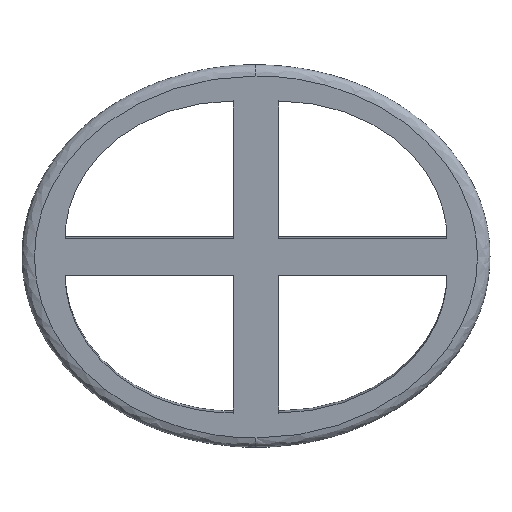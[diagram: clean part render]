
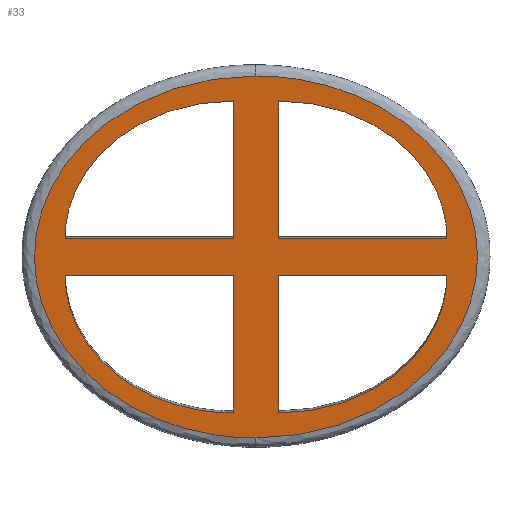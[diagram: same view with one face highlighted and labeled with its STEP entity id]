
A CAD part, front view. The second image highlights one B-rep face of the part: STEP entity #33.
In plain terms, the highlighted planar face has unit normal (-0.001, -0.994, -0.107).
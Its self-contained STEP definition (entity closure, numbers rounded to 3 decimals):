
#24=FACE_BOUND('',#70,.T.);
#25=FACE_BOUND('',#71,.T.);
#26=FACE_BOUND('',#72,.T.);
#27=FACE_BOUND('',#73,.T.);
#33=ADVANCED_FACE('',(#51,#24,#25,#26,#27),#308,.T.);
#51=FACE_OUTER_BOUND('',#69,.T.);
#69=EDGE_LOOP('',(#98,#99));
#70=EDGE_LOOP('',(#100,#101,#102));
#71=EDGE_LOOP('',(#103,#104,#105));
#72=EDGE_LOOP('',(#106,#107,#108));
#73=EDGE_LOOP('',(#109,#110,#111));
#98=ORIENTED_EDGE('',*,*,#197,.T.);
#99=ORIENTED_EDGE('',*,*,#231,.T.);
#100=ORIENTED_EDGE('',*,*,#204,.F.);
#101=ORIENTED_EDGE('',*,*,#189,.F.);
#102=ORIENTED_EDGE('',*,*,#188,.F.);
#103=ORIENTED_EDGE('',*,*,#190,.F.);
#104=ORIENTED_EDGE('',*,*,#208,.F.);
#105=ORIENTED_EDGE('',*,*,#191,.F.);
#106=ORIENTED_EDGE('',*,*,#192,.F.);
#107=ORIENTED_EDGE('',*,*,#215,.F.);
#108=ORIENTED_EDGE('',*,*,#193,.F.);
#109=ORIENTED_EDGE('',*,*,#225,.T.);
#110=ORIENTED_EDGE('',*,*,#194,.T.);
#111=ORIENTED_EDGE('',*,*,#195,.T.);
#188=EDGE_CURVE('',#279,#280,#232,.T.);
#189=EDGE_CURVE('',#280,#281,#233,.T.);
#190=EDGE_CURVE('',#283,#284,#234,.T.);
#191=EDGE_CURVE('',#284,#282,#235,.T.);
#192=EDGE_CURVE('',#286,#287,#236,.T.);
#193=EDGE_CURVE('',#287,#285,#237,.T.);
#194=EDGE_CURVE('',#288,#289,#238,.T.);
#195=EDGE_CURVE('',#289,#290,#239,.T.);
#197=EDGE_CURVE('',#303,#307,#259,.T.);
#204=EDGE_CURVE('',#281,#279,#261,.T.);
#208=EDGE_CURVE('',#282,#283,#265,.T.);
#215=EDGE_CURVE('',#285,#286,#269,.T.);
#225=EDGE_CURVE('',#290,#288,#271,.T.);
#231=EDGE_CURVE('',#307,#303,#277,.T.);
#232=B_SPLINE_CURVE_WITH_KNOTS('',1,(#1213,#1214),.UNSPECIFIED.,.F.,.F.,
(2,2),(6.283,6.783),.UNSPECIFIED.);
#233=B_SPLINE_CURVE_WITH_KNOTS('',1,(#1215,#1216),.UNSPECIFIED.,.F.,.F.,
(2,2),(6.783,7.783),.UNSPECIFIED.);
#234=B_SPLINE_CURVE_WITH_KNOTS('',1,(#1217,#1218),.UNSPECIFIED.,.F.,.F.,
(2,2),(5.142,6.142),.UNSPECIFIED.);
#235=B_SPLINE_CURVE_WITH_KNOTS('',1,(#1219,#1220),.UNSPECIFIED.,.F.,.F.,
(2,2),(6.142,6.642),.UNSPECIFIED.);
#236=B_SPLINE_CURVE_WITH_KNOTS('',1,(#1221,#1222),.UNSPECIFIED.,.F.,.F.,
(2,2),(6.142,7.142),.UNSPECIFIED.);
#237=B_SPLINE_CURVE_WITH_KNOTS('',1,(#1223,#1224),.UNSPECIFIED.,.F.,.F.,
(2,2),(7.142,7.642),.UNSPECIFIED.);
#238=B_SPLINE_CURVE_WITH_KNOTS('',1,(#1225,#1226),.UNSPECIFIED.,.F.,.F.,
(2,2),(0.,1.),.UNSPECIFIED.);
#239=B_SPLINE_CURVE_WITH_KNOTS('',1,(#1227,#1228),.UNSPECIFIED.,.F.,.F.,
(2,2),(1.,1.5),.UNSPECIFIED.);
#259=(
BOUNDED_CURVE()
B_SPLINE_CURVE(2,(#1234,#1235,#1236,#1237,#1238),.UNSPECIFIED.,.F.,.F.)
B_SPLINE_CURVE_WITH_KNOTS((3,2,3),(0.,1.571,3.142),
 .UNSPECIFIED.)
CURVE()
GEOMETRIC_REPRESENTATION_ITEM()
RATIONAL_B_SPLINE_CURVE((1.,0.707,1.,0.707,1.))
REPRESENTATION_ITEM('')
);
#261=(
BOUNDED_CURVE()
B_SPLINE_CURVE(2,(#1252,#1253,#1254),.UNSPECIFIED.,.F.,.F.)
B_SPLINE_CURVE_WITH_KNOTS((3,3),(7.783,9.354),
 .UNSPECIFIED.)
CURVE()
GEOMETRIC_REPRESENTATION_ITEM()
RATIONAL_B_SPLINE_CURVE((1.,0.707,1.))
REPRESENTATION_ITEM('')
);
#265=(
BOUNDED_CURVE()
B_SPLINE_CURVE(2,(#1262,#1263,#1264),.UNSPECIFIED.,.F.,.F.)
B_SPLINE_CURVE_WITH_KNOTS((3,3),(3.571,5.142),
 .UNSPECIFIED.)
CURVE()
GEOMETRIC_REPRESENTATION_ITEM()
RATIONAL_B_SPLINE_CURVE((1.,0.707,1.))
REPRESENTATION_ITEM('')
);
#269=(
BOUNDED_CURVE()
B_SPLINE_CURVE(2,(#1278,#1279,#1280),.UNSPECIFIED.,.F.,.F.)
B_SPLINE_CURVE_WITH_KNOTS((3,3),(4.571,6.142),
 .UNSPECIFIED.)
CURVE()
GEOMETRIC_REPRESENTATION_ITEM()
RATIONAL_B_SPLINE_CURVE((1.,0.707,1.))
REPRESENTATION_ITEM('')
);
#271=(
BOUNDED_CURVE()
B_SPLINE_CURVE(2,(#1300,#1301,#1302),.UNSPECIFIED.,.F.,.F.)
B_SPLINE_CURVE_WITH_KNOTS((3,3),(1.5,3.071),.UNSPECIFIED.)
CURVE()
GEOMETRIC_REPRESENTATION_ITEM()
RATIONAL_B_SPLINE_CURVE((1.,0.707,1.))
REPRESENTATION_ITEM('')
);
#277=(
BOUNDED_CURVE()
B_SPLINE_CURVE(2,(#1371,#1372,#1373,#1374,#1375),.UNSPECIFIED.,.F.,.F.)
B_SPLINE_CURVE_WITH_KNOTS((3,2,3),(3.142,4.712,6.283),
 .UNSPECIFIED.)
CURVE()
GEOMETRIC_REPRESENTATION_ITEM()
RATIONAL_B_SPLINE_CURVE((1.,0.707,1.,0.707,1.))
REPRESENTATION_ITEM('')
);
#279=VERTEX_POINT('',#1127);
#280=VERTEX_POINT('',#1128);
#281=VERTEX_POINT('',#1129);
#282=VERTEX_POINT('',#1130);
#283=VERTEX_POINT('',#1131);
#284=VERTEX_POINT('',#1132);
#285=VERTEX_POINT('',#1133);
#286=VERTEX_POINT('',#1134);
#287=VERTEX_POINT('',#1135);
#288=VERTEX_POINT('',#1136);
#289=VERTEX_POINT('',#1137);
#290=VERTEX_POINT('',#1138);
#303=VERTEX_POINT('',#1151);
#307=VERTEX_POINT('',#1155);
#308=PLANE('',#346);
#346=AXIS2_PLACEMENT_3D('',#552,#359,$);
#359=DIRECTION('',(-0.001,-0.994,-0.107));
#552=CARTESIAN_POINT('',(-35.975,-91.386,-20.774));
#1127=CARTESIAN_POINT('',(-3.681,-91.915,-16.233));
#1128=CARTESIAN_POINT('',(-3.681,-94.27,5.612));
#1129=CARTESIAN_POINT('',(-30.413,-94.238,5.615));
#1130=CARTESIAN_POINT('',(-3.681,-97.257,33.312));
#1131=CARTESIAN_POINT('',(-30.413,-94.869,11.471));
#1132=CARTESIAN_POINT('',(-3.681,-94.902,11.467));
#1133=CARTESIAN_POINT('',(3.485,-91.924,-16.234));
#1134=CARTESIAN_POINT('',(30.216,-94.311,5.607));
#1135=CARTESIAN_POINT('',(3.485,-94.279,5.611));
#1136=CARTESIAN_POINT('',(30.216,-94.943,11.463));
#1137=CARTESIAN_POINT('',(3.485,-94.91,11.466));
#1138=CARTESIAN_POINT('',(3.485,-97.266,33.311));
#1151=CARTESIAN_POINT('',(-0.098,-91.491,-20.204));
#1155=CARTESIAN_POINT('',(-0.098,-97.689,37.282));
#1213=CARTESIAN_POINT('',(-3.681,-91.915,-16.233));
#1214=CARTESIAN_POINT('',(-3.681,-94.27,5.612));
#1215=CARTESIAN_POINT('',(-3.681,-94.27,5.612));
#1216=CARTESIAN_POINT('',(-30.413,-94.238,5.615));
#1217=CARTESIAN_POINT('',(-30.413,-94.869,11.471));
#1218=CARTESIAN_POINT('',(-3.681,-94.902,11.467));
#1219=CARTESIAN_POINT('',(-3.681,-94.902,11.467));
#1220=CARTESIAN_POINT('',(-3.681,-97.257,33.312));
#1221=CARTESIAN_POINT('',(30.216,-94.311,5.607));
#1222=CARTESIAN_POINT('',(3.485,-94.279,5.611));
#1223=CARTESIAN_POINT('',(3.485,-94.279,5.611));
#1224=CARTESIAN_POINT('',(3.485,-91.924,-16.234));
#1225=CARTESIAN_POINT('',(30.216,-94.943,11.463));
#1226=CARTESIAN_POINT('',(3.485,-94.91,11.466));
#1227=CARTESIAN_POINT('',(3.485,-94.91,11.466));
#1228=CARTESIAN_POINT('',(3.485,-97.266,33.311));
#1234=CARTESIAN_POINT('',(-0.098,-91.491,-20.204));
#1235=CARTESIAN_POINT('',(35.075,-91.534,-20.209));
#1236=CARTESIAN_POINT('',(35.075,-94.633,8.534));
#1237=CARTESIAN_POINT('',(35.075,-97.732,37.277));
#1238=CARTESIAN_POINT('',(-0.098,-97.689,37.282));
#1252=CARTESIAN_POINT('',(-30.413,-94.238,5.615));
#1253=CARTESIAN_POINT('',(-30.413,-91.883,-16.229));
#1254=CARTESIAN_POINT('',(-3.681,-91.915,-16.233));
#1262=CARTESIAN_POINT('',(-3.681,-97.257,33.312));
#1263=CARTESIAN_POINT('',(-30.413,-97.225,33.315));
#1264=CARTESIAN_POINT('',(-30.413,-94.869,11.471));
#1278=CARTESIAN_POINT('',(3.485,-91.924,-16.234));
#1279=CARTESIAN_POINT('',(30.216,-91.956,-16.237));
#1280=CARTESIAN_POINT('',(30.216,-94.311,5.607));
#1300=CARTESIAN_POINT('',(3.485,-97.266,33.311));
#1301=CARTESIAN_POINT('',(30.216,-97.298,33.307));
#1302=CARTESIAN_POINT('',(30.216,-94.943,11.463));
#1371=CARTESIAN_POINT('',(-0.098,-97.689,37.282));
#1372=CARTESIAN_POINT('',(-35.271,-97.647,37.287));
#1373=CARTESIAN_POINT('',(-35.271,-94.548,8.544));
#1374=CARTESIAN_POINT('',(-35.271,-91.449,-20.199));
#1375=CARTESIAN_POINT('',(-0.098,-91.491,-20.204));
